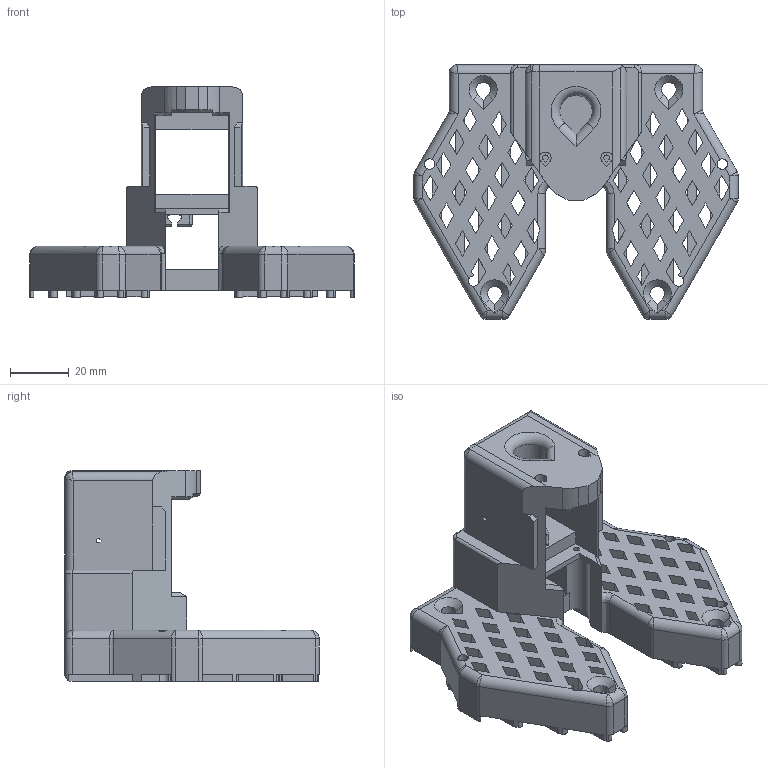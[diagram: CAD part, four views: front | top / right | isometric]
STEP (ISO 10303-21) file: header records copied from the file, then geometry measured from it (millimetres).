
FILE_DESCRIPTION(('Open CASCADE Model'),'2;1');
FILE_NAME('Open CASCADE Shape Model','2026-10-06T17:18:00',('Author'),( 'Open CASCADE'),'Open CASCADE STEP processor 7.8','Open CASCADE 7.8' ,'Unknown');
FILE_SCHEMA(('AUTOMOTIVE_DESIGN { 1 0 10303 214 1 1 1 1 }'));
Length unit declared in the file: millimetre
Products named in the file (1): Open CASCADE STEP translator 7.8 18
Bounding box: 110.92 x 87 x 72 mm (x, y, z)
Volume: 122134.4 mm3; surface area: 49718.1 mm2
Topology: 1 solids, 1 shells, 586 faces, 1802 edges, 1119 vertices
Faces by surface type: plane 435, cylinder 113, bspline 18, torus 10, cone 8, sphere 2
Full cylindrical faces by diameter (mm): 3.6 x2
Entity records: 47731 total; most frequent: CARTESIAN_POINT 12389, DIRECTION 6495, LINE 4661, VECTOR 4661, ORIENTED_EDGE 3578, PCURVE 3578, DEFINITIONAL_REPRESENTATION 3578, EDGE_CURVE 1789
